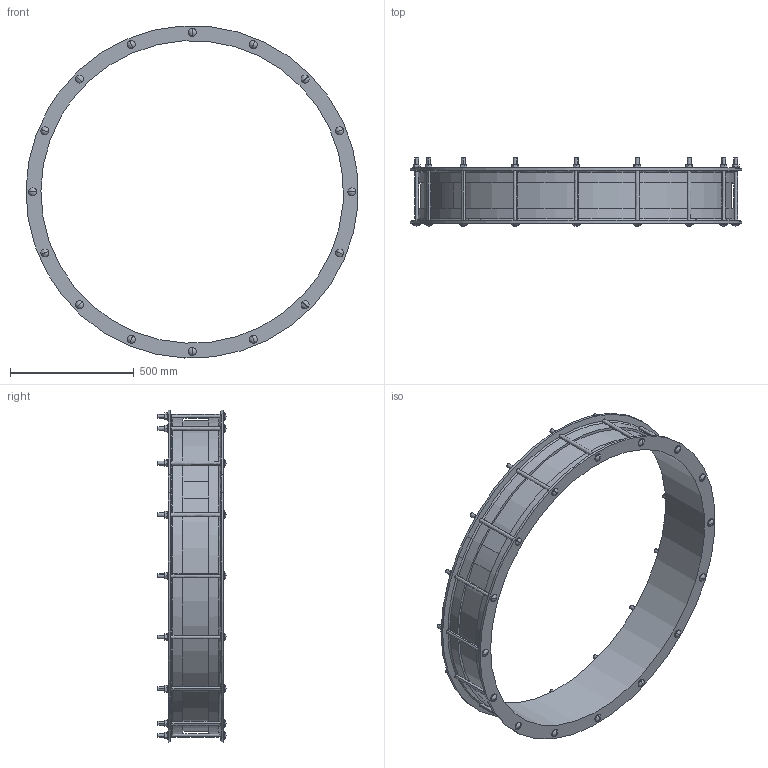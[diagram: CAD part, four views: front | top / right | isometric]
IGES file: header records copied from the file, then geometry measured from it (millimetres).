
Start section:  PTC IGES file: VJC_1222.igs
Global section: file name: VJC_1222.igs; native system: Creo Parametric by PTC Inc.; preprocessor: 2016130; author: mfairey; organization: Unknown; date: 20181206.150629; units: millimetre
Bounding box: 1344.1 x 275.68 x 1344.17 mm (x, y, z)
Surface area: 2736676.3 mm2 (no closed solid volume)
Topology: 0 solids, 0 shells, 384 faces, 2080 edges, 2048 vertices
Faces by surface type: revolution 236, bspline 148
